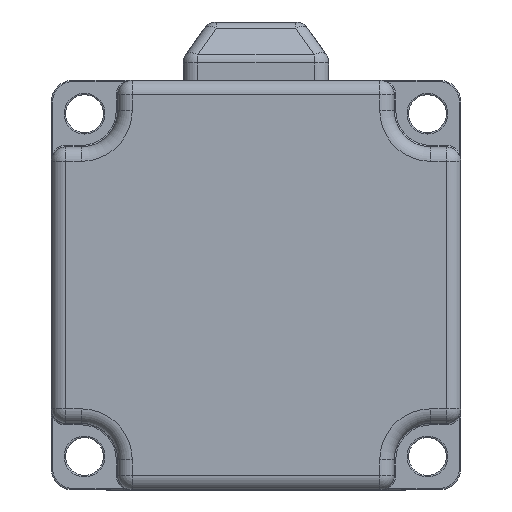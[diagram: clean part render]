
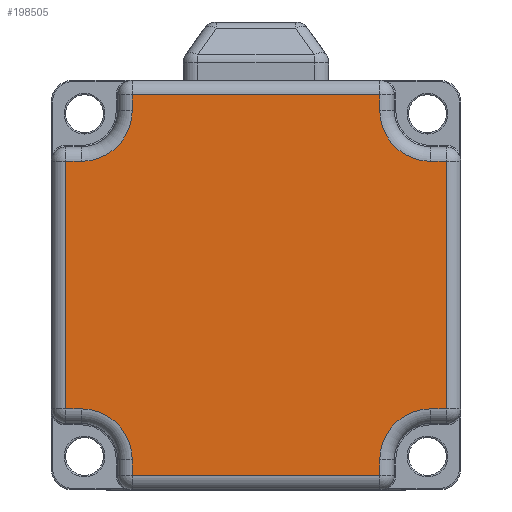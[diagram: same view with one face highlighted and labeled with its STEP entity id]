
A CAD part, front view. The second image highlights one B-rep face of the part: STEP entity #198505.
In plain terms, the highlighted planar face has unit normal (0, -1, 0).
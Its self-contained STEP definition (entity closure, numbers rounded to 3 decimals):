
#663 = VECTOR ( 'NONE', #216752, 1000. ) ;
#2620 = VECTOR ( 'NONE', #178091, 1000. ) ;
#5864 = ORIENTED_EDGE ( 'NONE', *, *, #64881, .T. ) ;
#9271 = DIRECTION ( 'NONE',  ( 0., 0., -1. ) ) ;
#12141 = DIRECTION ( 'NONE',  ( 0., 0., 1. ) ) ;
#12955 = VERTEX_POINT ( 'NONE', #198584 ) ;
#13853 = CARTESIAN_POINT ( 'NONE',  ( -28.15, -20., 17. ) ) ;
#15432 = ORIENTED_EDGE ( 'NONE', *, *, #150911, .T. ) ;
#16680 = CARTESIAN_POINT ( 'NONE',  ( 19., -20., -26.15 ) ) ;
#18495 = VECTOR ( 'NONE', #132539, 1000. ) ;
#19218 = VECTOR ( 'NONE', #197317, 1000. ) ;
#20229 = CARTESIAN_POINT ( 'NONE',  ( 24., -20., 17. ) ) ;
#21100 = DIRECTION ( 'NONE',  ( 0., 0., -1. ) ) ;
#21894 = ORIENTED_EDGE ( 'NONE', *, *, #228287, .T. ) ;
#22860 = VERTEX_POINT ( 'NONE', #39718 ) ;
#28115 = DIRECTION ( 'NONE',  ( 0., 0., 1. ) ) ;
#28218 = LINE ( 'NONE', #94863, #265348 ) ;
#28379 = ORIENTED_EDGE ( 'NONE', *, *, #29909, .T. ) ;
#29909 = EDGE_CURVE ( 'NONE', #202399, #193514, #62307, .T. ) ;
#31086 = CIRCLE ( 'NONE', #154040, 7. ) ;
#32617 = ORIENTED_EDGE ( 'NONE', *, *, #291756, .T. ) ;
#37074 = VERTEX_POINT ( 'NONE', #66955 ) ;
#38107 = DIRECTION ( 'NONE',  ( 0., 1., 0. ) ) ;
#39718 = CARTESIAN_POINT ( 'NONE',  ( -17., -20., 26.15 ) ) ;
#47824 = ORIENTED_EDGE ( 'NONE', *, *, #226544, .T. ) ;
#51581 = CARTESIAN_POINT ( 'NONE',  ( -17., -20., -24. ) ) ;
#53032 = DIRECTION ( 'NONE',  ( 0., 1., 0. ) ) ;
#54569 = DIRECTION ( 'NONE',  ( -1., 0., 0. ) ) ;
#57634 = LINE ( 'NONE', #283157, #150186 ) ;
#62307 = LINE ( 'NONE', #106903, #66488 ) ;
#62739 = CARTESIAN_POINT ( 'NONE',  ( -24., -20., 24. ) ) ;
#63657 = CARTESIAN_POINT ( 'NONE',  ( -26.15, -20., 17. ) ) ;
#64881 = EDGE_CURVE ( 'NONE', #216407, #133467, #219609, .T. ) ;
#66488 = VECTOR ( 'NONE', #12141, 1000. ) ;
#66952 = ORIENTED_EDGE ( 'NONE', *, *, #140077, .T. ) ;
#66955 = CARTESIAN_POINT ( 'NONE',  ( 17., -20., 26.15 ) ) ;
#70141 = CARTESIAN_POINT ( 'NONE',  ( 28.15, -20., -17. ) ) ;
#71420 = EDGE_CURVE ( 'NONE', #242092, #284190, #148721, .T. ) ;
#72606 = DIRECTION ( 'NONE',  ( -1., 0., 0. ) ) ;
#75379 = CARTESIAN_POINT ( 'NONE',  ( 24., -20., -24. ) ) ;
#76932 = EDGE_CURVE ( 'NONE', #106910, #37074, #122961, .T. ) ;
#81798 = CARTESIAN_POINT ( 'NONE',  ( 26.15, -20., -17. ) ) ;
#82027 = VECTOR ( 'NONE', #21100, 1000. ) ;
#82088 = LINE ( 'NONE', #104411, #18495 ) ;
#86875 = DIRECTION ( 'NONE',  ( 0., 0., -1. ) ) ;
#88262 = ORIENTED_EDGE ( 'NONE', *, *, #166104, .T. ) ;
#88757 = VERTEX_POINT ( 'NONE', #190563 ) ;
#89176 = CARTESIAN_POINT ( 'NONE',  ( -26.15, -20., -19. ) ) ;
#94863 = CARTESIAN_POINT ( 'NONE',  ( 0., -20., 17. ) ) ;
#95638 = ORIENTED_EDGE ( 'NONE', *, *, #71420, .T. ) ;
#95830 = CARTESIAN_POINT ( 'NONE',  ( 17., -20., -24. ) ) ;
#96737 = CARTESIAN_POINT ( 'NONE',  ( -24., -20., -24. ) ) ;
#96811 = PLANE ( 'NONE',  #289380 ) ;
#97776 = VERTEX_POINT ( 'NONE', #95830 ) ;
#99509 = EDGE_CURVE ( 'NONE', #193514, #236851, #28218, .T. ) ;
#100741 = ORIENTED_EDGE ( 'NONE', *, *, #99509, .T. ) ;
#101901 = CARTESIAN_POINT ( 'NONE',  ( 17., -20., -26.15 ) ) ;
#103071 = CARTESIAN_POINT ( 'NONE',  ( -24., -20., 17. ) ) ;
#104411 = CARTESIAN_POINT ( 'NONE',  ( -17., -20., -28.15 ) ) ;
#106903 = CARTESIAN_POINT ( 'NONE',  ( 26.15, -20., 0. ) ) ;
#106910 = VERTEX_POINT ( 'NONE', #149518 ) ;
#106979 = AXIS2_PLACEMENT_3D ( 'NONE', #75379, #53032, #185026 ) ;
#112935 = VERTEX_POINT ( 'NONE', #281007 ) ;
#113082 = CARTESIAN_POINT ( 'NONE',  ( -17., -20., -26.15 ) ) ;
#113109 = EDGE_CURVE ( 'NONE', #88757, #242092, #221945, .T. ) ;
#113274 = EDGE_CURVE ( 'NONE', #112935, #202399, #163536, .T. ) ;
#113442 = AXIS2_PLACEMENT_3D ( 'NONE', #96737, #276262, #9271 ) ;
#122931 = CARTESIAN_POINT ( 'NONE',  ( 0., -20., 26.15 ) ) ;
#122961 = LINE ( 'NONE', #278674, #194628 ) ;
#126132 = EDGE_CURVE ( 'NONE', #236851, #106910, #31086, .T. ) ;
#128587 = CARTESIAN_POINT ( 'NONE',  ( 24., -20., 24. ) ) ;
#128596 = CARTESIAN_POINT ( 'NONE',  ( 26.15, -20., 17. ) ) ;
#132539 = DIRECTION ( 'NONE',  ( 0., 0., -1. ) ) ;
#133467 = VERTEX_POINT ( 'NONE', #101901 ) ;
#136376 = AXIS2_PLACEMENT_3D ( 'NONE', #62739, #248028, #273329 ) ;
#140077 = EDGE_CURVE ( 'NONE', #133467, #97776, #288468, .T. ) ;
#146631 = CIRCLE ( 'NONE', #113442, 7. ) ;
#148721 = LINE ( 'NONE', #13853, #663 ) ;
#149518 = CARTESIAN_POINT ( 'NONE',  ( 17., -20., 24. ) ) ;
#150186 = VECTOR ( 'NONE', #213283, 1000. ) ;
#150911 = EDGE_CURVE ( 'NONE', #12955, #261313, #146631, .T. ) ;
#152980 = CARTESIAN_POINT ( 'NONE',  ( 0., -20., -17. ) ) ;
#154040 = AXIS2_PLACEMENT_3D ( 'NONE', #128587, #38107, #86875 ) ;
#155965 = LINE ( 'NONE', #89176, #82027 ) ;
#157702 = DIRECTION ( 'NONE',  ( 0., 0., -1. ) ) ;
#159171 = ORIENTED_EDGE ( 'NONE', *, *, #237116, .T. ) ;
#160635 = CARTESIAN_POINT ( 'NONE',  ( 0., -20., 0. ) ) ;
#161619 = VECTOR ( 'NONE', #54569, 1000. ) ;
#163536 = LINE ( 'NONE', #70141, #287997 ) ;
#166104 = EDGE_CURVE ( 'NONE', #22860, #88757, #57634, .T. ) ;
#171340 = ORIENTED_EDGE ( 'NONE', *, *, #113109, .T. ) ;
#171877 = DIRECTION ( 'NONE',  ( 1., 0., 0. ) ) ;
#177019 = EDGE_CURVE ( 'NONE', #211508, #12955, #216663, .T. ) ;
#178091 = DIRECTION ( 'NONE',  ( 1., 0., 0. ) ) ;
#185026 = DIRECTION ( 'NONE',  ( 0., 0., -1. ) ) ;
#185352 = ORIENTED_EDGE ( 'NONE', *, *, #76932, .T. ) ;
#186751 = ORIENTED_EDGE ( 'NONE', *, *, #113274, .T. ) ;
#190563 = CARTESIAN_POINT ( 'NONE',  ( -17., -20., 24. ) ) ;
#192089 = ORIENTED_EDGE ( 'NONE', *, *, #177019, .T. ) ;
#193514 = VERTEX_POINT ( 'NONE', #128596 ) ;
#194628 = VECTOR ( 'NONE', #28115, 1000. ) ;
#197317 = DIRECTION ( 'NONE',  ( 1., 0., 0. ) ) ;
#197714 = CARTESIAN_POINT ( 'NONE',  ( 17., -20., 0. ) ) ;
#198505 = ADVANCED_FACE ( 'NONE', ( #249552 ), #96811, .T. ) ;
#198584 = CARTESIAN_POINT ( 'NONE',  ( -24., -20., -17. ) ) ;
#199158 = DIRECTION ( 'NONE',  ( 0., 0., 1. ) ) ;
#202399 = VERTEX_POINT ( 'NONE', #81798 ) ;
#210153 = LINE ( 'NONE', #122931, #161619 ) ;
#211508 = VERTEX_POINT ( 'NONE', #279766 ) ;
#213283 = DIRECTION ( 'NONE',  ( 0., 0., -1. ) ) ;
#216407 = VERTEX_POINT ( 'NONE', #113082 ) ;
#216663 = LINE ( 'NONE', #152980, #2620 ) ;
#216752 = DIRECTION ( 'NONE',  ( -1., 0., 0. ) ) ;
#219609 = LINE ( 'NONE', #16680, #19218 ) ;
#221945 = CIRCLE ( 'NONE', #136376, 7. ) ;
#225789 = DIRECTION ( 'NONE',  ( 0., -1., 0. ) ) ;
#226544 = EDGE_CURVE ( 'NONE', #97776, #112935, #253583, .T. ) ;
#228140 = ORIENTED_EDGE ( 'NONE', *, *, #126132, .T. ) ;
#228287 = EDGE_CURVE ( 'NONE', #261313, #216407, #82088, .T. ) ;
#229675 = VECTOR ( 'NONE', #199158, 1000. ) ;
#236851 = VERTEX_POINT ( 'NONE', #20229 ) ;
#237116 = EDGE_CURVE ( 'NONE', #284190, #211508, #155965, .T. ) ;
#239943 = EDGE_LOOP ( 'NONE', ( #21894, #5864, #66952, #47824, #186751, #28379, #100741, #228140, #185352, #32617, #88262, #171340, #95638, #159171, #192089, #15432 ) ) ;
#242092 = VERTEX_POINT ( 'NONE', #103071 ) ;
#248028 = DIRECTION ( 'NONE',  ( 0., 1., 0. ) ) ;
#249552 = FACE_OUTER_BOUND ( 'NONE', #239943, .T. ) ;
#253583 = CIRCLE ( 'NONE', #106979, 7. ) ;
#261313 = VERTEX_POINT ( 'NONE', #51581 ) ;
#265348 = VECTOR ( 'NONE', #72606, 1000. ) ;
#273329 = DIRECTION ( 'NONE',  ( 0., 0., -1. ) ) ;
#276262 = DIRECTION ( 'NONE',  ( 0., 1., 0. ) ) ;
#278674 = CARTESIAN_POINT ( 'NONE',  ( 17., -20., 28.15 ) ) ;
#279766 = CARTESIAN_POINT ( 'NONE',  ( -26.15, -20., -17. ) ) ;
#281007 = CARTESIAN_POINT ( 'NONE',  ( 24., -20., -17. ) ) ;
#283157 = CARTESIAN_POINT ( 'NONE',  ( -17., -20., 0. ) ) ;
#284190 = VERTEX_POINT ( 'NONE', #63657 ) ;
#287997 = VECTOR ( 'NONE', #171877, 1000. ) ;
#288468 = LINE ( 'NONE', #197714, #229675 ) ;
#289380 = AXIS2_PLACEMENT_3D ( 'NONE', #160635, #225789, #157702 ) ;
#291756 = EDGE_CURVE ( 'NONE', #37074, #22860, #210153, .T. ) ;
